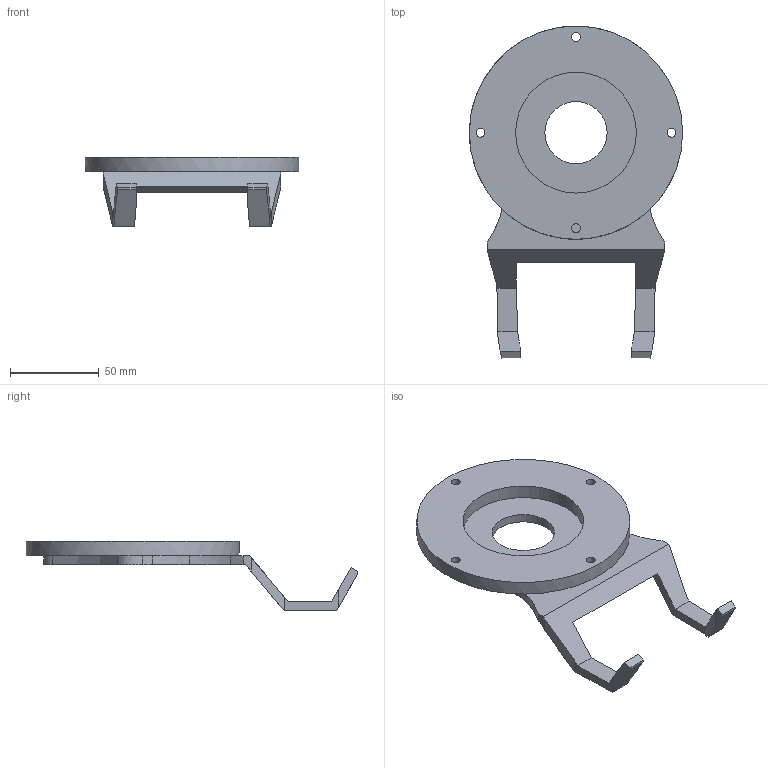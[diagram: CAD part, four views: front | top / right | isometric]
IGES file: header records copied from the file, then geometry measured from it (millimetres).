
Start section: Data from Parasolid IGES Translator 20.0.26, Copyright(c) 2006 Siemens P LM Software. All Rights Reserved.
Global section: file name: 9309839.igs; native system: By Siemens PLM Incorporated; preprocessor: XPlus GENERIC/IGES 20.0.26; author: Noname; organization: Noname; date: 20211203.151850; units: millimetre
Bounding box: 120 x 186.76 x 38.84 mm (x, y, z)
Surface area: 37275 mm2 (no closed solid volume)
Topology: 0 solids, 0 shells, 61 faces, 338 edges, 328 vertices
Faces by surface type: extrusion 43, revolution 18
